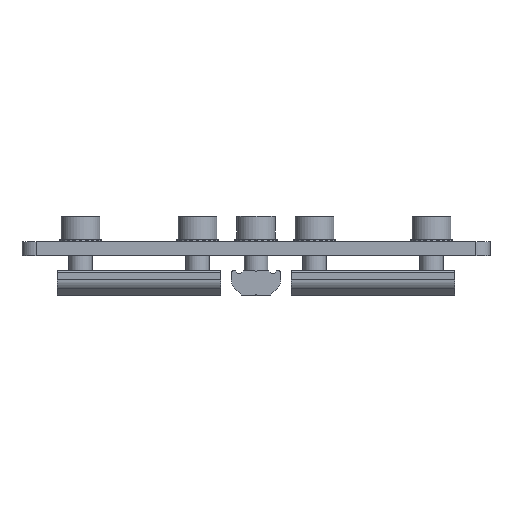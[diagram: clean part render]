
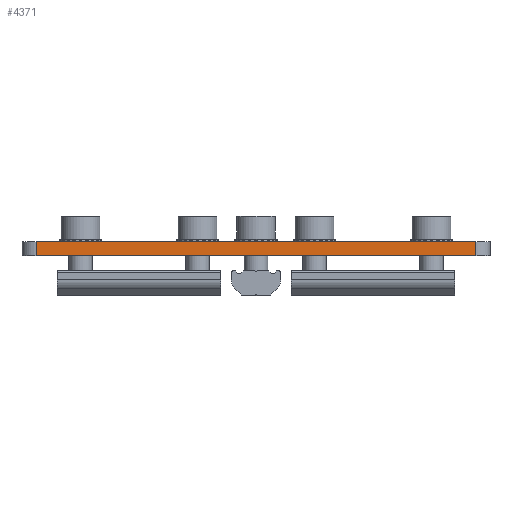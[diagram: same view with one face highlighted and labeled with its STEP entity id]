
A CAD part, front view. The second image highlights one B-rep face of the part: STEP entity #4371.
In plain terms, the highlighted planar face has unit normal (0, -1, 0).
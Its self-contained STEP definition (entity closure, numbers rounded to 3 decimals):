
#58 = DIRECTION ( 'NONE',  ( 0., 0., 1. ) ) ;
#277 = VECTOR ( 'NONE', #3701, 1000. ) ;
#478 = AXIS2_PLACEMENT_3D ( 'NONE', #7796, #8571, #4311 ) ;
#898 = ORIENTED_EDGE ( 'NONE', *, *, #7218, .F. ) ;
#1470 = ORIENTED_EDGE ( 'NONE', *, *, #4596, .T. ) ;
#1634 = VECTOR ( 'NONE', #3892, 1000. ) ;
#1650 = DIRECTION ( 'NONE',  ( 1., 0., 0. ) ) ;
#1651 = LINE ( 'NONE', #7326, #9052 ) ;
#1750 = VECTOR ( 'NONE', #58, 1000. ) ;
#1906 = VERTEX_POINT ( 'NONE', #2171 ) ;
#2171 = CARTESIAN_POINT ( 'NONE',  ( -15.203, -20.627, 22.861 ) ) ;
#2471 = CARTESIAN_POINT ( 'NONE',  ( -109.203, -20.627, 22.861 ) ) ;
#3458 = LINE ( 'NONE', #4418, #1750 ) ;
#3562 = LINE ( 'NONE', #5307, #1634 ) ;
#3592 = PLANE ( 'NONE',  #478 ) ;
#3701 = DIRECTION ( 'NONE',  ( 0., 0., 1. ) ) ;
#3798 = VERTEX_POINT ( 'NONE', #4292 ) ;
#3884 = EDGE_CURVE ( 'NONE', #3798, #4125, #5829, .T. ) ;
#3892 = DIRECTION ( 'NONE',  ( 1., 0., 0. ) ) ;
#4125 = VERTEX_POINT ( 'NONE', #2471 ) ;
#4292 = CARTESIAN_POINT ( 'NONE',  ( -109.203, -20.627, 19.861 ) ) ;
#4311 = DIRECTION ( 'NONE',  ( 0., 0., -1. ) ) ;
#4371 = ADVANCED_FACE ( 'NONE', ( #5366 ), #3592, .T. ) ;
#4418 = CARTESIAN_POINT ( 'NONE',  ( -15.203, -20.627, 19.861 ) ) ;
#4596 = EDGE_CURVE ( 'NONE', #3798, #4841, #1651, .T. ) ;
#4841 = VERTEX_POINT ( 'NONE', #6211 ) ;
#5307 = CARTESIAN_POINT ( 'NONE',  ( -109.203, -20.627, 22.861 ) ) ;
#5366 = FACE_OUTER_BOUND ( 'NONE', #7537, .T. ) ;
#5829 = LINE ( 'NONE', #7937, #277 ) ;
#6211 = CARTESIAN_POINT ( 'NONE',  ( -15.203, -20.627, 19.861 ) ) ;
#6405 = ORIENTED_EDGE ( 'NONE', *, *, #6493, .T. ) ;
#6493 = EDGE_CURVE ( 'NONE', #4841, #1906, #3458, .T. ) ;
#7218 = EDGE_CURVE ( 'NONE', #4125, #1906, #3562, .T. ) ;
#7326 = CARTESIAN_POINT ( 'NONE',  ( -109.203, -20.627, 19.861 ) ) ;
#7537 = EDGE_LOOP ( 'NONE', ( #898, #7647, #1470, #6405 ) ) ;
#7647 = ORIENTED_EDGE ( 'NONE', *, *, #3884, .F. ) ;
#7796 = CARTESIAN_POINT ( 'NONE',  ( -109.203, -20.627, 19.861 ) ) ;
#7937 = CARTESIAN_POINT ( 'NONE',  ( -109.203, -20.627, 19.861 ) ) ;
#8571 = DIRECTION ( 'NONE',  ( 0., -1., 0. ) ) ;
#9052 = VECTOR ( 'NONE', #1650, 1000. ) ;
